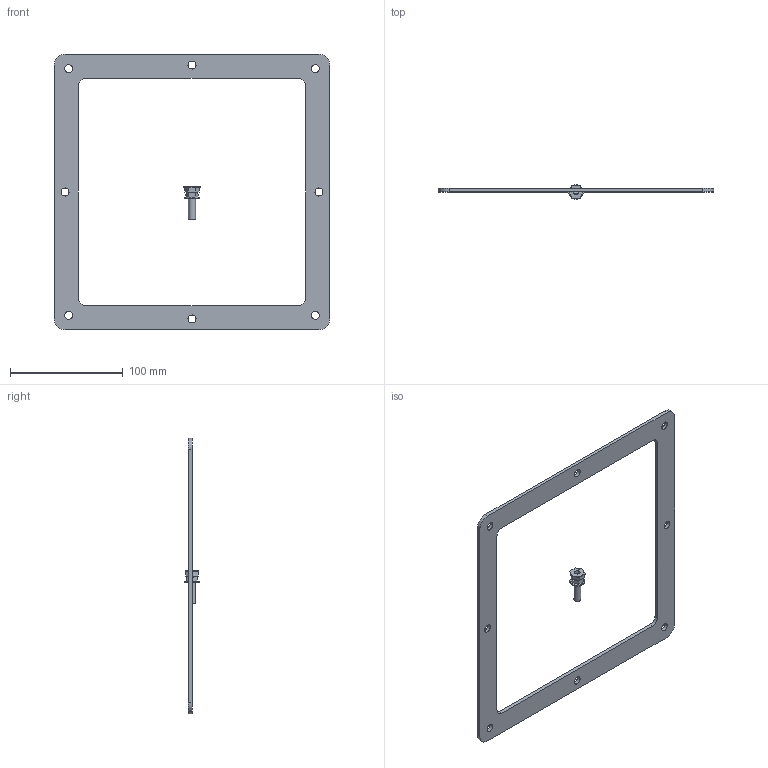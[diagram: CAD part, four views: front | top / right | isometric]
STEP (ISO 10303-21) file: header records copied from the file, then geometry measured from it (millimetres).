
FILE_DESCRIPTION(/* description */ ('Unknown'),/* implementation_level */ '2;1');
FILE_NAME(/* name */ '1487ES',/* time_stamp */ '2024-06-13T09:07:03-04:00',/* author */ ('Unknown'),/* organization */ ('Unknown'),/* preprocessor_version */ 'ST-DEVELOPER v18.104',/* originating_system */ 'Solid Edge',/* authorisation */ 'Unknown');
FILE_SCHEMA (('AUTOMOTIVE_DESIGN {1 0 10303 214 3 1 1}'));
Length unit declared in the file: inch
Products named in the file (5): 1487ES; KIT95039; NTS16535; SCC18001; GSK10522
Assembly tree (4 placements, depth 3):
  1487ES
    KIT95039
      NTS16535
      SCC18001
      GSK10522
Bounding box: 244.47 x 13.21 x 244.47 mm (x, y, z)
Volume: 60935.5 mm3; surface area: 44976.1 mm2
Topology: 3 solids, 3 shells, 71 faces, 193 edges, 131 vertices
Faces by surface type: plane 42, cylinder 21, torus 8
Full cylindrical faces by diameter (mm): 4.976 x1, 6.248 x1, 7.137 x8, 13.208 x1
Entity records: 2326 total; most frequent: CARTESIAN_POINT 461, DIRECTION 353, ORIENTED_EDGE 346, EDGE_CURVE 173, AXIS2_PLACEMENT_3D 126, VERTEX_POINT 122, EDGE_LOOP 105, FACE_BOUND 105
